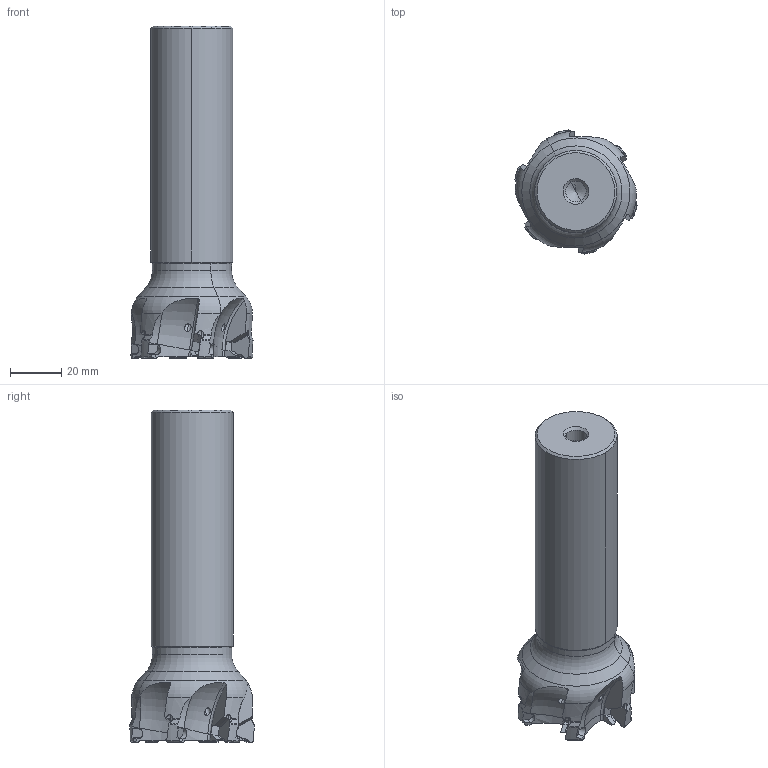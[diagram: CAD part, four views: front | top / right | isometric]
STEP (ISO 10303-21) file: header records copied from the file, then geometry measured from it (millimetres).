
FILE_DESCRIPTION(('CATIA V5 STEP','CAx-IF Rec.Pracs.--- Model Styling and Organization---1.2---2011-12-15'),'2;1');
FILE_NAME('N:\data\isr\design\special1\users\NATALY_B\Tal\NPA\3106770\HM390 ETP D50-6-C32-10.stp','2016-07-26T11:29:14+00:00',('none'),('none'),'CATIA Version 5 Release 21 SP 5 (IN-10)','CATIA V5 STEP AP214','none');
FILE_SCHEMA(('AUTOMOTIVE_DESIGN { 1 0 10303 214 1 1 1 1 }'));
Length unit declared in the file: millimetre
Products named in the file (1): HM390 ETP D50-6-C32-10
Bounding box: 47.55 x 48.41 x 129.4 mm (x, y, z)
Volume: 114723.9 mm3; surface area: 17959.3 mm2
Topology: 1 solids, 1 shells, 264 faces, 760 edges, 486 vertices
Faces by surface type: plane 105, cylinder 49, torus 46, sphere 30, cone 28, revolution 6
Entity records: 9487 total; most frequent: CARTESIAN_POINT 3577, ORIENTED_EDGE 1480, DIRECTION 811, EDGE_CURVE 740, VERTEX_POINT 486, AXIS2_PLACEMENT_3D 373, B_SPLINE_CURVE_WITH_KNOTS 323, EDGE_LOOP 272
